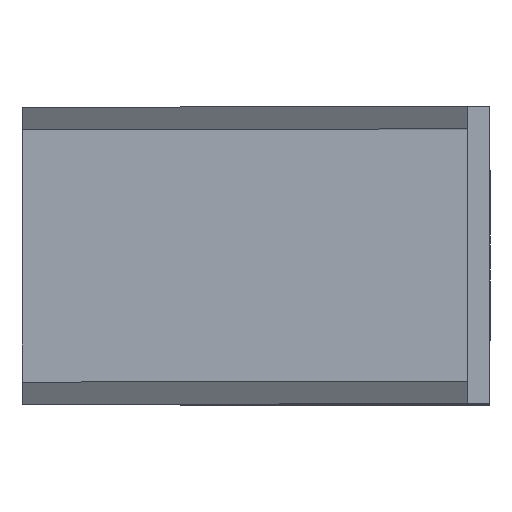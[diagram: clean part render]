
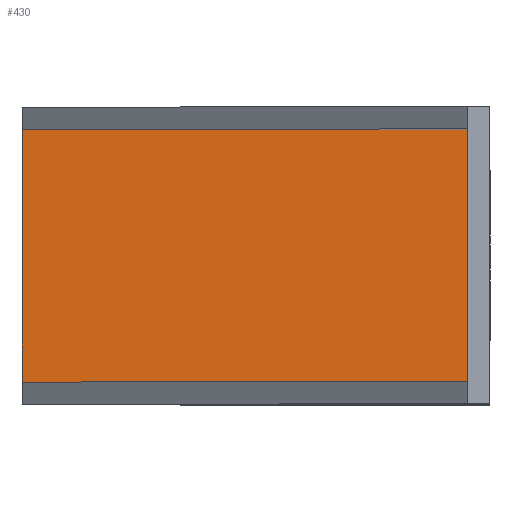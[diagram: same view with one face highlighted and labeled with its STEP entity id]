
A CAD part, top view. The second image highlights one B-rep face of the part: STEP entity #430.
In plain terms, the highlighted planar face has unit normal (0, 0, 1).
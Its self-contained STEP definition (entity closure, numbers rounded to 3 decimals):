
#38=FACE_OUTER_BOUND('',#63,.T.);
#63=EDGE_LOOP('',(#330,#331,#332,#333));
#81=LINE('',#616,#135);
#100=LINE('',#656,#154);
#109=LINE('',#680,#163);
#110=LINE('',#682,#164);
#135=VECTOR('',#502,10.);
#154=VECTOR('',#533,10.);
#163=VECTOR('',#560,10.);
#164=VECTOR('',#563,10.);
#188=VERTEX_POINT('',#611);
#189=VERTEX_POINT('',#615);
#202=VERTEX_POINT('',#648);
#204=VERTEX_POINT('',#654);
#225=EDGE_CURVE('',#188,#189,#81,.T.);
#244=EDGE_CURVE('',#204,#202,#100,.T.);
#257=EDGE_CURVE('',#189,#204,#109,.T.);
#258=EDGE_CURVE('',#188,#202,#110,.T.);
#330=ORIENTED_EDGE('',*,*,#225,.T.);
#331=ORIENTED_EDGE('',*,*,#257,.T.);
#332=ORIENTED_EDGE('',*,*,#244,.T.);
#333=ORIENTED_EDGE('',*,*,#258,.F.);
#406=PLANE('',#481);
#430=ADVANCED_FACE('',(#38),#406,.T.);
#481=AXIS2_PLACEMENT_3D('',#681,#561,#562);
#502=DIRECTION('',(1.,0.,0.));
#533=DIRECTION('',(-1.,0.,0.));
#560=DIRECTION('',(0.,1.,0.));
#561=DIRECTION('center_axis',(0.,0.,1.));
#562=DIRECTION('ref_axis',(1.,0.,0.));
#563=DIRECTION('',(0.,1.,0.));
#611=CARTESIAN_POINT('',(-3.,3.,3.));
#615=CARTESIAN_POINT('',(57.,3.,3.));
#616=CARTESIAN_POINT('',(12.,3.,3.));
#648=CARTESIAN_POINT('',(-3.,37.,3.));
#654=CARTESIAN_POINT('',(57.,37.,3.));
#656=CARTESIAN_POINT('',(12.,37.,3.));
#680=CARTESIAN_POINT('',(57.,0.,3.));
#681=CARTESIAN_POINT('Origin',(-3.,0.,3.));
#682=CARTESIAN_POINT('',(-3.,0.,3.));
